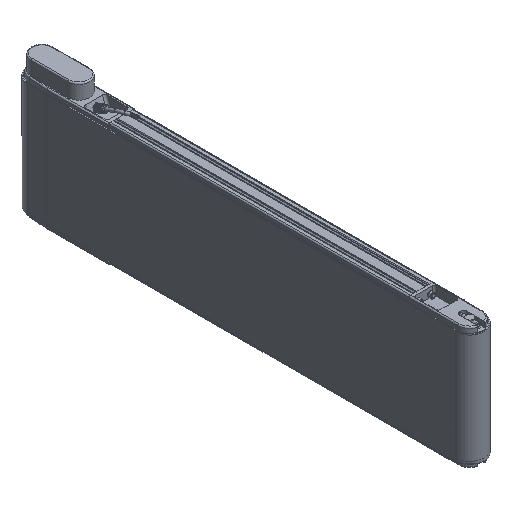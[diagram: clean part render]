
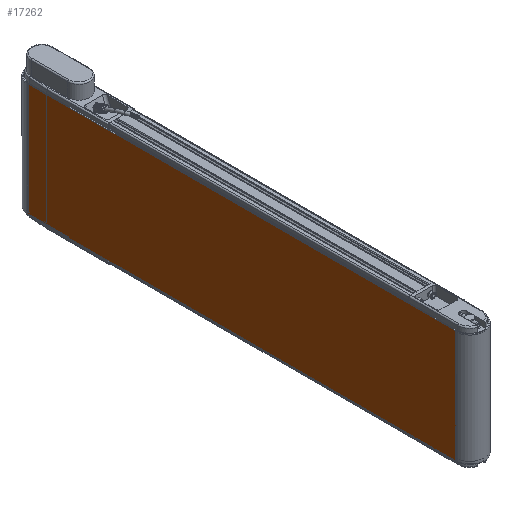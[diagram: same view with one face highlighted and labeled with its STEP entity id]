
A CAD part, isometric view. The second image highlights one B-rep face of the part: STEP entity #17262.
In plain terms, the highlighted planar face has unit normal (-1, 0, 0).
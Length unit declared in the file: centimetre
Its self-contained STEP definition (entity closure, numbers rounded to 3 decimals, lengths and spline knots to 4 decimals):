
#473=PLANE('',#18542);
#1353=FACE_OUTER_BOUND('',#2322,.T.);
#2322=EDGE_LOOP('',(#12303,#12304,#12305,#12306));
#4293=LINE('',#26681,#5642);
#4310=LINE('',#26718,#5659);
#4311=LINE('',#26721,#5660);
#4312=LINE('',#26722,#5661);
#5642=VECTOR('',#21236,1.);
#5659=VECTOR('',#21261,1.);
#5660=VECTOR('',#21264,1.);
#5661=VECTOR('',#21265,1.);
#7167=VERTEX_POINT('',#26675);
#7169=VERTEX_POINT('',#26679);
#7185=VERTEX_POINT('',#26716);
#7186=VERTEX_POINT('',#26720);
#9087=EDGE_CURVE('',#7167,#7169,#4293,.T.);
#9106=EDGE_CURVE('',#7169,#7185,#4310,.T.);
#9107=EDGE_CURVE('',#7185,#7186,#4311,.T.);
#9108=EDGE_CURVE('',#7167,#7186,#4312,.T.);
#12303=ORIENTED_EDGE('',*,*,#9087,.T.);
#12304=ORIENTED_EDGE('',*,*,#9106,.T.);
#12305=ORIENTED_EDGE('',*,*,#9107,.T.);
#12306=ORIENTED_EDGE('',*,*,#9108,.F.);
#17262=ADVANCED_FACE('',(#1353),#473,.T.);
#18542=AXIS2_PLACEMENT_3D('',#26719,#21262,#21263);
#21236=DIRECTION('',(0.,-1.,0.));
#21261=DIRECTION('',(0.,0.,1.));
#21262=DIRECTION('center_axis',(-1.,0.,0.));
#21263=DIRECTION('ref_axis',(0.,0.,
1.));
#21264=DIRECTION('',(0.,1.,0.));
#21265=DIRECTION('',(0.,0.,1.));
#26675=CARTESIAN_POINT('',(-2.33,13.,-9.25));
#26679=CARTESIAN_POINT('',(-2.33,-57.,-9.25));
#26681=CARTESIAN_POINT('',(-2.33,13.,-9.25));
#26716=CARTESIAN_POINT('',(-2.33,-57.,9.25));
#26718=CARTESIAN_POINT('',(-2.33,-57.,0.));
#26719=CARTESIAN_POINT('Origin',(-2.33,13.,0.));
#26720=CARTESIAN_POINT('',(-2.33,13.,9.25));
#26721=CARTESIAN_POINT('',(-2.33,13.,9.25));
#26722=CARTESIAN_POINT('',(-2.33,13.,0.));
